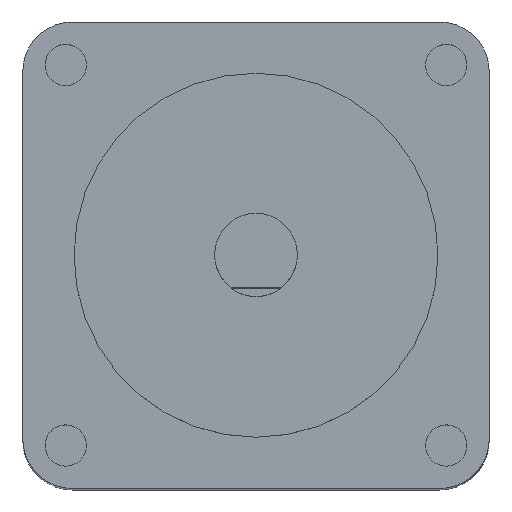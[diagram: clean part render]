
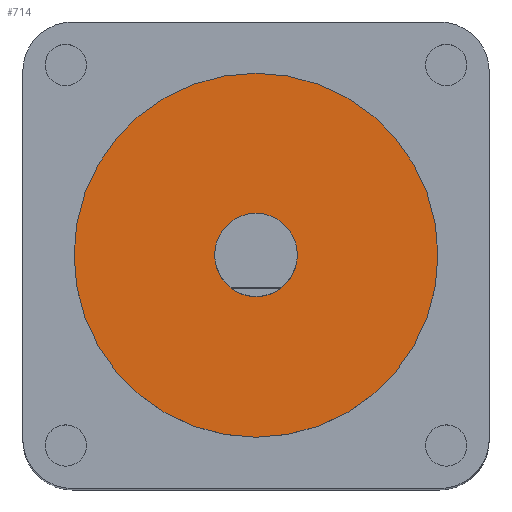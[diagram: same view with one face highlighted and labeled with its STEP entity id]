
A CAD part, top view. The second image highlights one B-rep face of the part: STEP entity #714.
In plain terms, the highlighted planar face has unit normal (0, 0, 1).
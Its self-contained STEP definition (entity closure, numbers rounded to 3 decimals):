
#23 = FACE_BOUND ( 'NONE', #170, .T. ) ;
#72 = FACE_OUTER_BOUND ( 'NONE', #266, .T. ) ;
#111 = VERTEX_POINT ( 'NONE', #394 ) ;
#129 = ORIENTED_EDGE ( 'NONE', *, *, #349, .T. ) ;
#135 = ORIENTED_EDGE ( 'NONE', *, *, #749, .F. ) ;
#170 = EDGE_LOOP ( 'NONE', ( #289, #135 ) ) ;
#180 = VERTEX_POINT ( 'NONE', #786 ) ;
#190 = VERTEX_POINT ( 'NONE', #781 ) ;
#210 = VERTEX_POINT ( 'NONE', #782 ) ;
#266 = EDGE_LOOP ( 'NONE', ( #288, #129 ) ) ;
#288 = ORIENTED_EDGE ( 'NONE', *, *, #364, .T. ) ;
#289 = ORIENTED_EDGE ( 'NONE', *, *, #344, .F. ) ;
#329 = CARTESIAN_POINT ( 'NONE',  ( 0., 0., 53. ) ) ;
#330 = DIRECTION ( 'NONE',  ( 1., 0., 0. ) ) ;
#331 = DIRECTION ( 'NONE',  ( 0., 0., 1. ) ) ;
#344 = EDGE_CURVE ( 'NONE', #210, #190, #647, .T. ) ;
#349 = EDGE_CURVE ( 'NONE', #180, #111, #703, .T. ) ;
#364 = EDGE_CURVE ( 'NONE', #111, #180, #664, .T. ) ;
#394 = CARTESIAN_POINT ( 'NONE',  ( -11., 0., 53. ) ) ;
#483 = CARTESIAN_POINT ( 'NONE',  ( 0., 0., 53. ) ) ;
#484 = DIRECTION ( 'NONE',  ( 0., 0., 1. ) ) ;
#485 = DIRECTION ( 'NONE',  ( 1., 0., 0. ) ) ;
#542 = DIRECTION ( 'NONE',  ( 0., 0., 1. ) ) ;
#543 = CARTESIAN_POINT ( 'NONE',  ( 0., 0., 53. ) ) ;
#549 = DIRECTION ( 'NONE',  ( 1., 0., 0. ) ) ;
#553 = CARTESIAN_POINT ( 'NONE',  ( 0., 0., 53. ) ) ;
#555 = PLANE ( 'NONE',  #619 ) ;
#556 = DIRECTION ( 'NONE',  ( 0., 0., 1. ) ) ;
#562 = DIRECTION ( 'NONE',  ( 0., 0., 1. ) ) ;
#563 = DIRECTION ( 'NONE',  ( 1., 0., 0. ) ) ;
#568 = CARTESIAN_POINT ( 'NONE',  ( 0., 0., 53. ) ) ;
#608 = AXIS2_PLACEMENT_3D ( 'NONE', #543, #542, #549 ) ;
#619 = AXIS2_PLACEMENT_3D ( 'NONE', #553, #556, #809 ) ;
#620 = CIRCLE ( 'NONE', #676, 2.5 ) ;
#640 = AXIS2_PLACEMENT_3D ( 'NONE', #329, #331, #330 ) ;
#647 = CIRCLE ( 'NONE', #673, 2.5 ) ;
#664 = CIRCLE ( 'NONE', #608, 11. ) ;
#673 = AXIS2_PLACEMENT_3D ( 'NONE', #568, #562, #563 ) ;
#676 = AXIS2_PLACEMENT_3D ( 'NONE', #483, #484, #485 ) ;
#703 = CIRCLE ( 'NONE', #640, 11. ) ;
#714 = ADVANCED_FACE ( 'NONE', ( #72, #23 ), #555, .T. ) ;
#749 = EDGE_CURVE ( 'NONE', #190, #210, #620, .T. ) ;
#781 = CARTESIAN_POINT ( 'NONE',  ( 2.5, 0., 53. ) ) ;
#782 = CARTESIAN_POINT ( 'NONE',  ( -2.5, 0., 53. ) ) ;
#786 = CARTESIAN_POINT ( 'NONE',  ( 11., 0., 53. ) ) ;
#809 = DIRECTION ( 'NONE',  ( 1., 0., 0. ) ) ;
